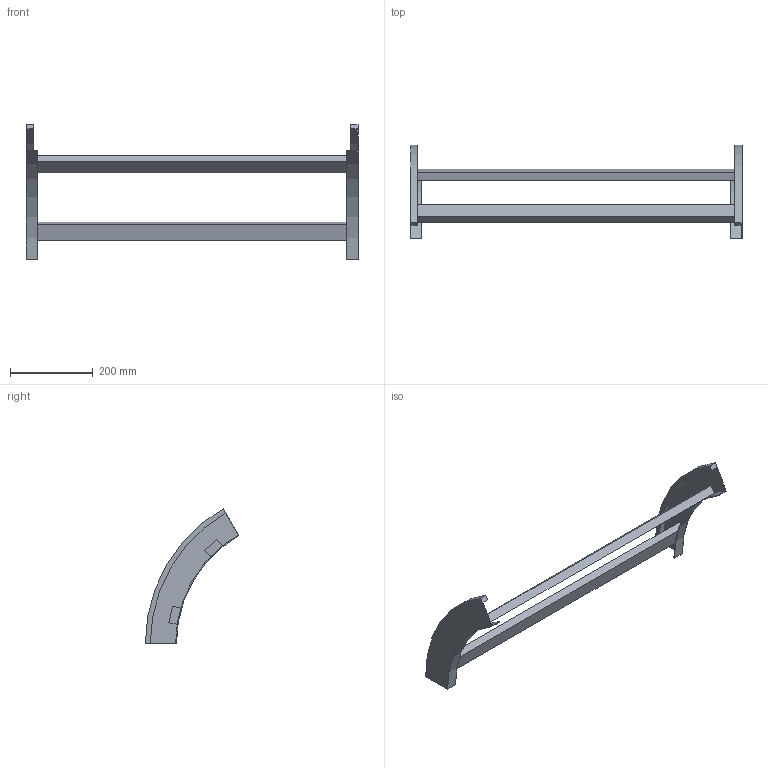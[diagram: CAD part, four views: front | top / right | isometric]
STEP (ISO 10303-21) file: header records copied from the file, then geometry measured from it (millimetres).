
FILE_DESCRIPTION (( 'STEP AP214' ), '1' );
FILE_NAME ('B2_41B3C800.step', '2025-02-21T15:00:50', ( '' ), ( '' ), 'SwSTEP 2.0', 'SolidWorks 2023', '' );
FILE_SCHEMA (( 'AUTOMOTIVE_DESIGN' ));
Length unit declared in the file: millimetre
Products named in the file (3): B2_LONGH.DISCESA_60°_H75_R300; B2_41B3C800; TRAVERSINO_800
Assembly tree (4 placements, depth 2):
  B2_41B3C800
    B2_LONGH.DISCESA_60°_H75_R300  x2
    TRAVERSINO_800  x2
Bounding box: 800 x 225 x 324.76 mm (x, y, z)
Volume: 1575453.1 mm3; surface area: 362547.4 mm2
Topology: 4 solids, 4 shells, 32 faces, 72 edges, 48 vertices
Faces by surface type: plane 24, cylinder 8
Entity records: 552 total; most frequent: DIRECTION 90, CARTESIAN_POINT 83, ORIENTED_EDGE 72, EDGE_CURVE 36, AXIS2_PLACEMENT_3D 31, LINE 28, VECTOR 28, VERTEX_POINT 24
